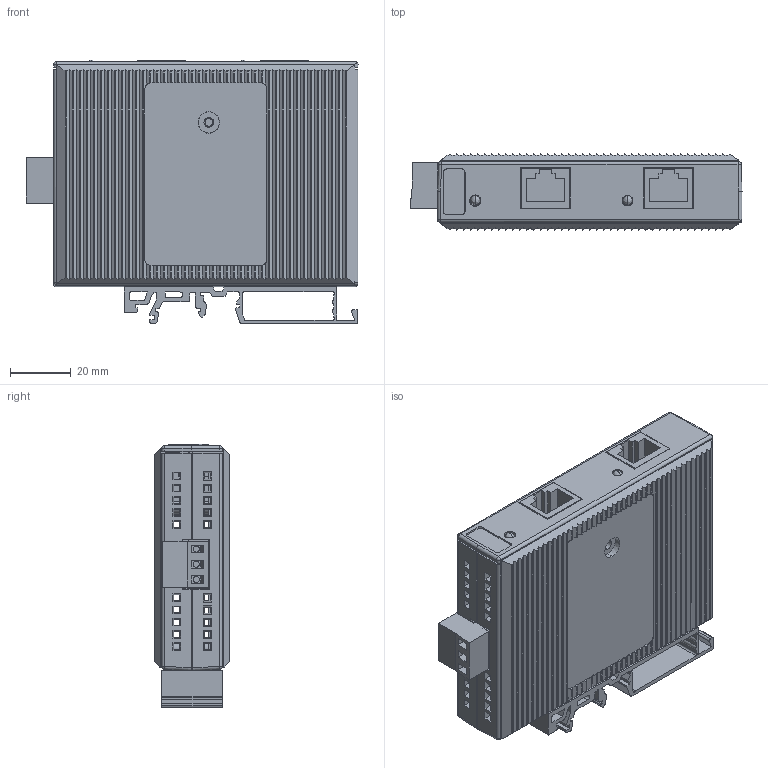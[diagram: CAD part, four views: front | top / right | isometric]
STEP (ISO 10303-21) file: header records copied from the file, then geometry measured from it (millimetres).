
FILE_DESCRIPTION((''),'2;1');
FILE_NAME('INJ_24_ASM_ASM','2015-12-04T',('Vincent_Huang'),('PTC'),'PRO/ENGINEER BY PARAMETRIC TECHNOLOGY CORPORATION, 2013050','PRO/ENGINEER BY PARAMETRIC TECHNOLOGY CORPORATION, 2013050','');
FILE_SCHEMA(('CONFIG_CONTROL_DESIGN'));
Length unit declared in the file: millimetre
Products named in the file (14): INJ_24_PCB_8; 1126005081000_RJ45_E5J88_8P8C__; PRT0001; 1111000002200_TERMINAL_M_3P_1; 1111000002500_TERMINAL_FM_3P_1; INJ_24_PCB_ASM_ASM_13_ASM; INJ_24_BOTTOM_8; INJ_24_TOP_2; SP-01-0040A001_5; AL_6; PAD_2; PAD1_1; INJ_24_ASM_15_ASM; INJ_24_ASM_ASM
Assembly tree (15 placements, depth 4):
  INJ_24_ASM_ASM
    INJ_24_ASM_15_ASM
      INJ_24_PCB_ASM_ASM_13_ASM
        INJ_24_PCB_8
        1126005081000_RJ45_E5J88_8P8C__  x2
        PRT0001  x2
        1111000002200_TERMINAL_M_3P_1
        1111000002500_TERMINAL_FM_3P_1
      INJ_24_BOTTOM_8
      INJ_24_TOP_2
      SP-01-0040A001_5
      AL_6
      PAD_2
      PAD1_1
Bounding box: 109.05 x 24.86 x 86.71 mm (x, y, z)
Volume: 72085.3 mm3; surface area: 86019.8 mm2
Topology: 13 solids, 13 shells, 1452 faces, 4008 edges, 2622 vertices
Faces by surface type: plane 1079, cylinder 323, cone 28, bspline 9, sphere 7, torus 6
Entity records: 44946 total; most frequent: CARTESIAN_POINT 9365, ORIENTED_EDGE 7678, DIRECTION 6712, EDGE_CURVE 3839, VECTOR 3002, LINE 3002, VERTEX_POINT 2516, AXIS2_PLACEMENT_3D 1855
